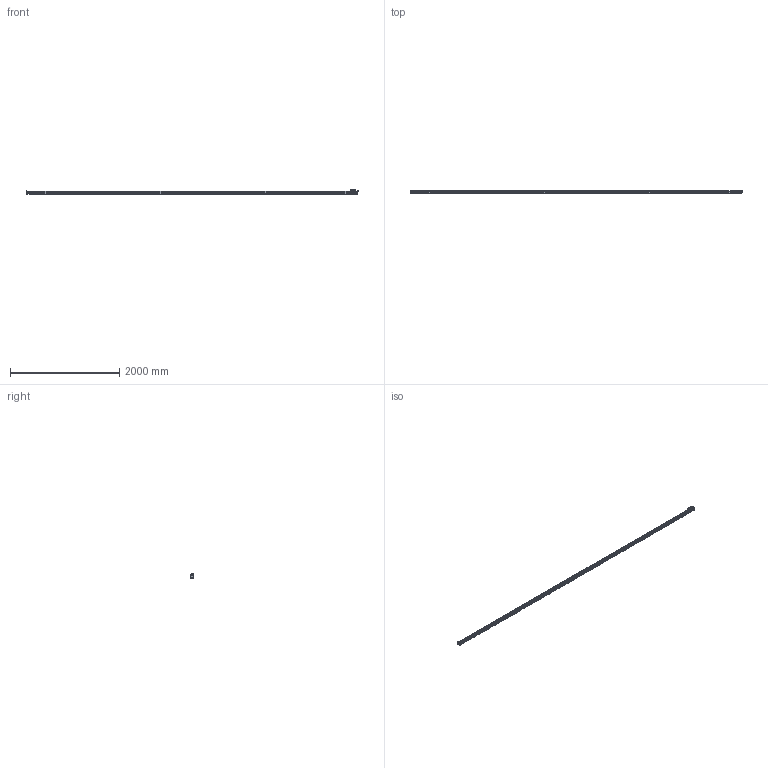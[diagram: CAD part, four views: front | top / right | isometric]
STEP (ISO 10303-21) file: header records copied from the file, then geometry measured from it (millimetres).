
FILE_DESCRIPTION(('Creo Elements/Direct Modeling STEP Export'),'2;1');
FILE_NAME('REGLA_L3_5840_T.stp','2021-02-04T13:13:20',(''),(''),'Creo Elements/Direct Modeling STEP processor for AP214 (Solid Model)','Creo Elements/Direct Modeling 19.0G 27-Nov-2017 (C) Parametric Technology GmbH','');
FILE_SCHEMA(('AUTOMOTIVE_DESIGN { 1 0 10303 214 1 1 1 1 }'));
Products named in the file (3): PERFIL_L3_5840; CABEZA_L3_T_M6; MOD_L3_5840_T
Assembly tree (2 placements, depth 2):
  MOD_L3_5840_T
    CABEZA_L3_T_M6
    PERFIL_L3_5840
Bounding box: 6090 x 50 x 85 mm (x, y, z)
Volume: 15801524.4 mm3; surface area: 1765892.3 mm2
Topology: 2 solids, 2 shells, 2254 faces, 6463 edges, 4314 vertices
Faces by surface type: plane 1132, cylinder 775, cone 232, bspline 59, torus 50, extrusion 6
Entity records: 89685 total; most frequent: CARTESIAN_POINT 25572, ORIENTED_EDGE 12910, DIRECTION 11420, EDGE_CURVE 6455, VERTEX_POINT 4314, VECTOR 4058, LINE 4052, AXIS2_PLACEMENT_3D 3681
